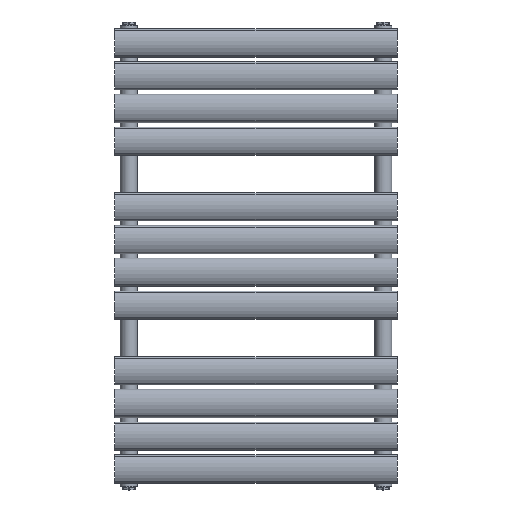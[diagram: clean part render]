
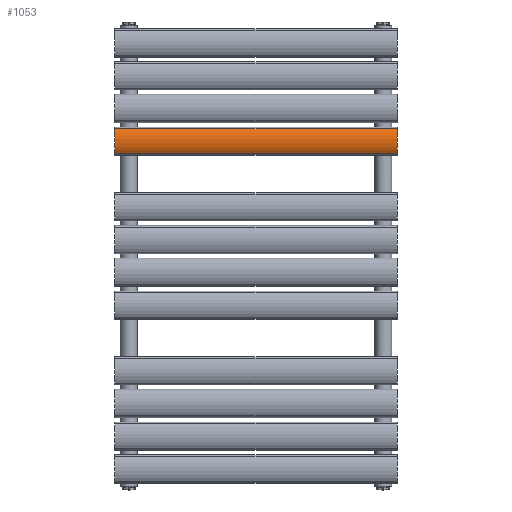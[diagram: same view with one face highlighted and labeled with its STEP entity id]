
A CAD part, top view. The second image highlights one B-rep face of the part: STEP entity #1053.
In plain terms, the highlighted cylindrical face has radius 39.5 mm (diameter 79 mm), a partial arc.
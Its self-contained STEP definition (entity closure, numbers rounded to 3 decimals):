
#115=LINE('',#2650,#147);
#116=LINE('',#2654,#148);
#147=VECTOR('',#1338,10.);
#148=VECTOR('',#1341,10.);
#348=FACE_OUTER_BOUND('',#451,.T.);
#451=EDGE_LOOP('',(#856,#857,#858,#859));
#507=CIRCLE('',#1170,39.5);
#508=CIRCLE('',#1171,39.5);
#594=VERTEX_POINT('',#2648);
#595=VERTEX_POINT('',#2649);
#596=VERTEX_POINT('',#2651);
#597=VERTEX_POINT('',#2653);
#693=EDGE_CURVE('',#594,#595,#115,.T.);
#694=EDGE_CURVE('',#596,#594,#507,.T.);
#695=EDGE_CURVE('',#597,#596,#116,.T.);
#696=EDGE_CURVE('',#595,#597,#508,.T.);
#856=ORIENTED_EDGE('',*,*,#693,.F.);
#857=ORIENTED_EDGE('',*,*,#694,.F.);
#858=ORIENTED_EDGE('',*,*,#695,.F.);
#859=ORIENTED_EDGE('',*,*,#696,.F.);
#1018=CYLINDRICAL_SURFACE('',#1169,39.5);
#1053=ADVANCED_FACE('',(#348),#1018,.T.);
#1169=AXIS2_PLACEMENT_3D('',#2647,#1336,#1337);
#1170=AXIS2_PLACEMENT_3D('',#2652,#1339,#1340);
#1171=AXIS2_PLACEMENT_3D('',#2655,#1342,#1343);
#1336=DIRECTION('center_axis',(0.,0.,1.));
#1337=DIRECTION('ref_axis',(-0.552,-0.834,0.));
#1338=DIRECTION('',(0.,0.,-1.));
#1339=DIRECTION('center_axis',(0.,0.,1.));
#1340=DIRECTION('ref_axis',(-0.552,-0.834,0.));
#1341=DIRECTION('',(0.,0.,1.));
#1342=DIRECTION('center_axis',(0.,0.,-1.));
#1343=DIRECTION('ref_axis',(-0.552,-0.834,0.));
#2647=CARTESIAN_POINT('Origin',(0.,14.5,0.));
#2648=CARTESIAN_POINT('',(21.816,-18.429,250.));
#2649=CARTESIAN_POINT('',(21.816,-18.429,-250.));
#2650=CARTESIAN_POINT('',(21.816,-18.429,0.));
#2651=CARTESIAN_POINT('',(-21.816,-18.429,250.));
#2652=CARTESIAN_POINT('Origin',(0.,14.5,250.));
#2653=CARTESIAN_POINT('',(-21.816,-18.429,-250.));
#2654=CARTESIAN_POINT('',(-21.816,-18.429,0.));
#2655=CARTESIAN_POINT('Origin',(0.,14.5,-250.));
